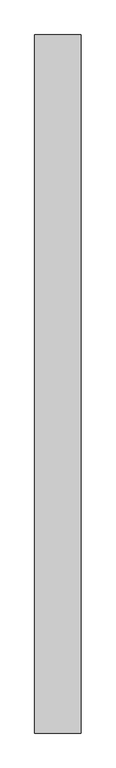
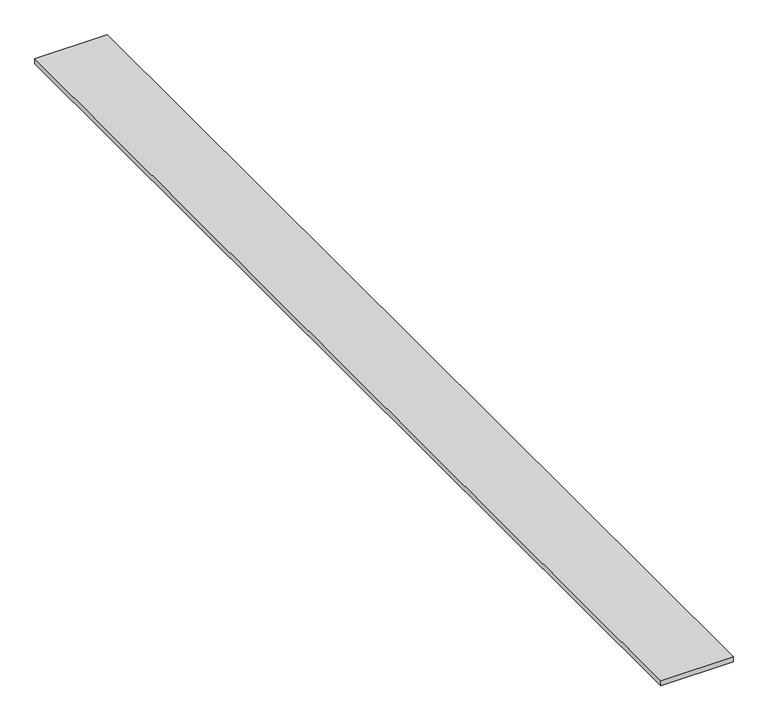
"""IFC4 building model written with IfcOpenShell, lengths in millimetres: fastener geometry, GASBETON Malte : Malta ancorante IDRO."""

from ifc_helpers import new_model, si_unit, origin, origin_with_axes, place, context, project, spatial, polyline, outline, extrude, source, transform, mapped, element, save


def fastener_28812900(model_context):
    return source(origin(), model_context, "Body", "SweptSolid", [
        extrude(outline(polyline([(200.0, 3000.0), (200.0, -3000.0), (-200.0, -3000.0), (-200.0, 3000.0), (200.0, 3000.0)])), origin_with_axes(), (0.0, 0.0, 1.0), 30.0),
    ])


if __name__ == "__main__":
    model = new_model("IFC4")
    model_context = context("Model", 3, world=origin())
    ifc_project = project(units=[si_unit("LENGTHUNIT", "METRE", prefix="MILLI")], contexts=[model_context])
    site = spatial("IfcSite", under=ifc_project)
    building = spatial("IfcBuilding", under=site)
    placement = place(None, origin())
    fastener_shape = fastener_28812900(model_context)
    element("IfcFastener", 1, ObjectType="GASBETON Malte : Malta ancorante IDRO", at=placement, inside=building, context=model_context, shape_type="MappedRepresentation", body=[
        mapped(fastener_shape, transform((0.0, 0.0, 0.0), x_axis=(1.0, 0.0, 0.0), y_axis=(0.0, 1.0, 0.0), z_axis=(0.0, 0.0, 1.0))),
    ])
    save(model, "model.ifc")
